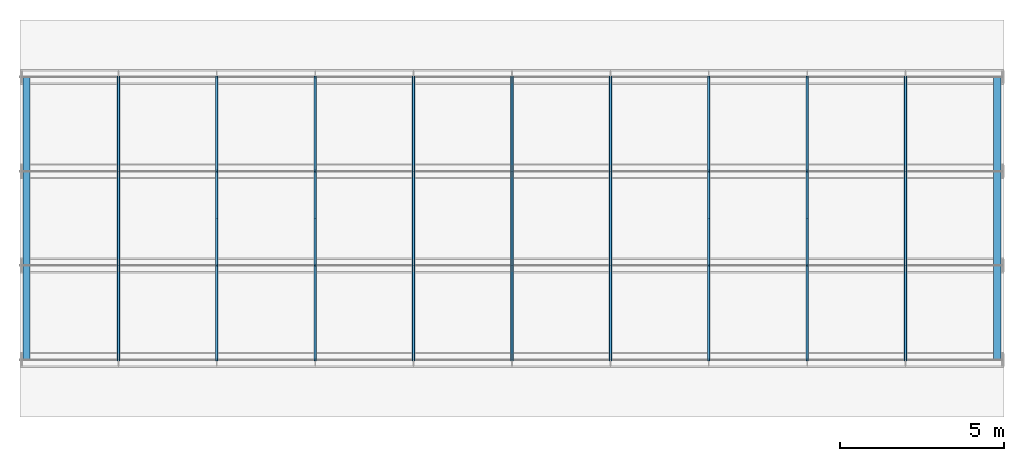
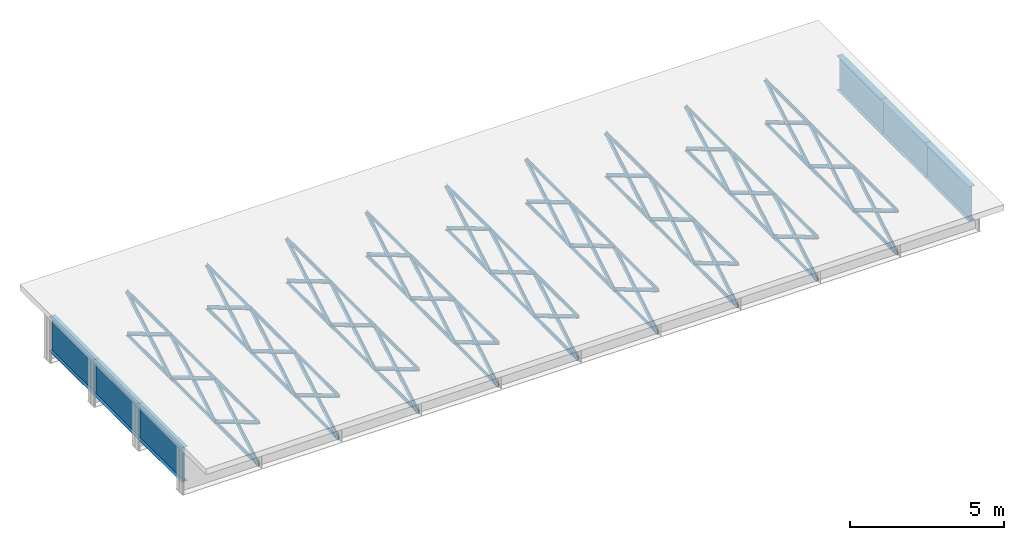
# One storey, part 1 of 11: 114 members.
"""IFC4 building model written with IfcOpenShell, lengths in metres."""

from ifc_helpers import new_model, si_unit, frame, origin, origin_with_axes, origin_2d_with_axis, place, context, subcontext, project, spatial, i_section, l_section, extrude, element, save


model = new_model("IFC4")

# Units and contexts
model_context = context("Model", 3, precision=1e-05, world=origin())
body_context = subcontext(model_context, "Body", "Model", "MODEL_VIEW")
ifc_project = project(units=[si_unit("LENGTHUNIT", "METRE"), si_unit("AREAUNIT", "SQUARE_METRE"), si_unit("VOLUMEUNIT", "CUBIC_METRE"), si_unit("PLANEANGLEUNIT", "RADIAN")], contexts=[model_context])

# Site, building, storey
site_placement = place(None, origin_with_axes())
site = spatial("IfcSite", under=ifc_project, at=site_placement, Name="Default Site")
building_placement = place(site_placement, origin_with_axes())
building = spatial("IfcBuilding", under=site, at=building_placement, Name="Bridge Structure")
storey_placement = place(building_placement, origin_with_axes())
storey = spatial("IfcBuildingStorey", under=building, at=storey_placement, Name="Superstructure")

# Members
for number, where, z_axis, x_axis, name in (
    (1, (0.2, -4.3125, 0.1715), (0.0, 1.0, 0.0), (-1.0, 0.0, 0.0), "End Diaphragm"),
    (2, (0.2, -1.4375, 0.1715), (0.0, 1.0, 0.0), (-1.0, 0.0, 0.0), "End Diaphragm"),
    (3, (0.2, 1.4375, 0.1715), (0.0, 1.0, 0.0), (-1.0, 0.0, 0.0), "End Diaphragm"),
):
    element("IfcMember", number, at=place(storey_placement, frame(where, z_axis=z_axis, x_axis=x_axis)), inside=storey, Name=name, context=body_context, shape_type="SweptSolid", body=[
        extrude(i_section(OverallWidth=0.225, OverallDepth=1.369, WebThickness=0.014, FlangeThickness=0.012, at=origin_2d_with_axis()), origin_with_axes(), (0.0, 0.0, 1.0), 2.875),
    ])
for number, where, z_axis, x_axis, name in (
    (4, (3.0, -4.3125, 0.856), (0.0, 0.8592021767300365, -0.5116362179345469), (-1.0, 0.0, 0.0), "Diagonal Brace"),
    (5, (3.0, -4.3125, -0.856), (0.0, 0.8592021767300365, 0.5116362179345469), (-1.0, 0.0, 0.0), "Diagonal Brace"),
):
    element("IfcMember", number, at=place(storey_placement, frame(where, z_axis=z_axis, x_axis=x_axis)), inside=storey, Name=name, context=body_context, shape_type="SweptSolid", body=[
        extrude(l_section(Depth=0.128, Width=0.085, Thickness=0.008, at=origin_2d_with_axis()), origin_with_axes(), (0.0, 0.0, 1.0), 3.346127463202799),
    ])
for number, where, z_axis, x_axis, name in (
    (6, (3.0, -4.3125, -0.856), (0.0, 1.0, 0.0), (-1.0, 0.0, 0.0), "Bottom Chord"),
    (7, (3.0, -4.3125, 0.856), (0.0, 1.0, 0.0), (-1.0, 0.0, 0.0), "Top Chord"),
):
    element("IfcMember", number, at=place(storey_placement, frame(where, z_axis=z_axis, x_axis=x_axis)), inside=storey, Name=name, context=body_context, shape_type="SweptSolid", body=[
        extrude(l_section(Depth=0.111, Width=0.068, Thickness=0.008, at=origin_2d_with_axis()), origin_with_axes(), (0.0, 0.0, 1.0), 2.875),
    ])
for number, where, z_axis, x_axis, name in (
    (8, (3.0, -1.4375, 0.856), (0.0, 0.8592021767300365, -0.5116362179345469), (-1.0, 0.0, 0.0), "Diagonal Brace"),
    (9, (3.0, -1.4375, -0.856), (0.0, 0.8592021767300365, 0.5116362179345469), (-1.0, 0.0, 0.0), "Diagonal Brace"),
):
    element("IfcMember", number, at=place(storey_placement, frame(where, z_axis=z_axis, x_axis=x_axis)), inside=storey, Name=name, context=body_context, shape_type="SweptSolid", body=[
        extrude(l_section(Depth=0.128, Width=0.085, Thickness=0.008, at=origin_2d_with_axis()), origin_with_axes(), (0.0, 0.0, 1.0), 3.346127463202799),
    ])
for number, where, z_axis, x_axis, name in (
    (10, (3.0, -1.4375, -0.856), (0.0, 1.0, 0.0), (-1.0, 0.0, 0.0), "Bottom Chord"),
    (11, (3.0, -1.4375, 0.856), (0.0, 1.0, 0.0), (-1.0, 0.0, 0.0), "Top Chord"),
):
    element("IfcMember", number, at=place(storey_placement, frame(where, z_axis=z_axis, x_axis=x_axis)), inside=storey, Name=name, context=body_context, shape_type="SweptSolid", body=[
        extrude(l_section(Depth=0.111, Width=0.068, Thickness=0.008, at=origin_2d_with_axis()), origin_with_axes(), (0.0, 0.0, 1.0), 2.875),
    ])
for number, where, z_axis, x_axis, name in (
    (12, (3.0, 1.4375, 0.856), (0.0, 0.8592021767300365, -0.5116362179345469), (-1.0, 0.0, 0.0), "Diagonal Brace"),
    (13, (3.0, 1.4375, -0.856), (0.0, 0.8592021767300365, 0.5116362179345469), (-1.0, 0.0, 0.0), "Diagonal Brace"),
):
    element("IfcMember", number, at=place(storey_placement, frame(where, z_axis=z_axis, x_axis=x_axis)), inside=storey, Name=name, context=body_context, shape_type="SweptSolid", body=[
        extrude(l_section(Depth=0.128, Width=0.085, Thickness=0.008, at=origin_2d_with_axis()), origin_with_axes(), (0.0, 0.0, 1.0), 3.346127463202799),
    ])
for number, where, z_axis, x_axis, name in (
    (14, (3.0, 1.4375, -0.856), (0.0, 1.0, 0.0), (-1.0, 0.0, 0.0), "Bottom Chord"),
    (15, (3.0, 1.4375, 0.856), (0.0, 1.0, 0.0), (-1.0, 0.0, 0.0), "Top Chord"),
):
    element("IfcMember", number, at=place(storey_placement, frame(where, z_axis=z_axis, x_axis=x_axis)), inside=storey, Name=name, context=body_context, shape_type="SweptSolid", body=[
        extrude(l_section(Depth=0.111, Width=0.068, Thickness=0.008, at=origin_2d_with_axis()), origin_with_axes(), (0.0, 0.0, 1.0), 2.875),
    ])
for number, where, z_axis, x_axis, name in (
    (16, (6.0, -4.3125, 0.856), (0.0, 0.8592021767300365, -0.5116362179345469), (-1.0, 0.0, 0.0), "Diagonal Brace"),
    (17, (6.0, -4.3125, -0.856), (0.0, 0.8592021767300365, 0.5116362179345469), (-1.0, 0.0, 0.0), "Diagonal Brace"),
):
    element("IfcMember", number, at=place(storey_placement, frame(where, z_axis=z_axis, x_axis=x_axis)), inside=storey, Name=name, context=body_context, shape_type="SweptSolid", body=[
        extrude(l_section(Depth=0.128, Width=0.085, Thickness=0.008, at=origin_2d_with_axis()), origin_with_axes(), (0.0, 0.0, 1.0), 3.346127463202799),
    ])
for number, where, z_axis, x_axis, name in (
    (18, (6.0, -4.3125, -0.856), (0.0, 1.0, 0.0), (-1.0, 0.0, 0.0), "Bottom Chord"),
    (19, (6.0, -4.3125, 0.856), (0.0, 1.0, 0.0), (-1.0, 0.0, 0.0), "Top Chord"),
):
    element("IfcMember", number, at=place(storey_placement, frame(where, z_axis=z_axis, x_axis=x_axis)), inside=storey, Name=name, context=body_context, shape_type="SweptSolid", body=[
        extrude(l_section(Depth=0.111, Width=0.068, Thickness=0.008, at=origin_2d_with_axis()), origin_with_axes(), (0.0, 0.0, 1.0), 2.875),
    ])
for number, where, z_axis, x_axis, name in (
    (20, (6.0, -1.4375, 0.856), (0.0, 0.8592021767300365, -0.5116362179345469), (-1.0, 0.0, 0.0), "Diagonal Brace"),
    (21, (6.0, -1.4375, -0.856), (0.0, 0.8592021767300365, 0.5116362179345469), (-1.0, 0.0, 0.0), "Diagonal Brace"),
):
    element("IfcMember", number, at=place(storey_placement, frame(where, z_axis=z_axis, x_axis=x_axis)), inside=storey, Name=name, context=body_context, shape_type="SweptSolid", body=[
        extrude(l_section(Depth=0.128, Width=0.085, Thickness=0.008, at=origin_2d_with_axis()), origin_with_axes(), (0.0, 0.0, 1.0), 3.346127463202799),
    ])
for number, where, z_axis, x_axis, name in (
    (22, (6.0, -1.4375, -0.856), (0.0, 1.0, 0.0), (-1.0, 0.0, 0.0), "Bottom Chord"),
    (23, (6.0, -1.4375, 0.856), (0.0, 1.0, 0.0), (-1.0, 0.0, 0.0), "Top Chord"),
):
    element("IfcMember", number, at=place(storey_placement, frame(where, z_axis=z_axis, x_axis=x_axis)), inside=storey, Name=name, context=body_context, shape_type="SweptSolid", body=[
        extrude(l_section(Depth=0.111, Width=0.068, Thickness=0.008, at=origin_2d_with_axis()), origin_with_axes(), (0.0, 0.0, 1.0), 2.875),
    ])
for number, where, z_axis, x_axis, name in (
    (24, (6.0, 1.4375, 0.856), (0.0, 0.8592021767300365, -0.5116362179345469), (-1.0, 0.0, 0.0), "Diagonal Brace"),
    (25, (6.0, 1.4375, -0.856), (0.0, 0.8592021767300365, 0.5116362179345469), (-1.0, 0.0, 0.0), "Diagonal Brace"),
):
    element("IfcMember", number, at=place(storey_placement, frame(where, z_axis=z_axis, x_axis=x_axis)), inside=storey, Name=name, context=body_context, shape_type="SweptSolid", body=[
        extrude(l_section(Depth=0.128, Width=0.085, Thickness=0.008, at=origin_2d_with_axis()), origin_with_axes(), (0.0, 0.0, 1.0), 3.346127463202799),
    ])
for number, where, z_axis, x_axis, name in (
    (26, (6.0, 1.4375, -0.856), (0.0, 1.0, 0.0), (-1.0, 0.0, 0.0), "Bottom Chord"),
    (27, (6.0, 1.4375, 0.856), (0.0, 1.0, 0.0), (-1.0, 0.0, 0.0), "Top Chord"),
):
    element("IfcMember", number, at=place(storey_placement, frame(where, z_axis=z_axis, x_axis=x_axis)), inside=storey, Name=name, context=body_context, shape_type="SweptSolid", body=[
        extrude(l_section(Depth=0.111, Width=0.068, Thickness=0.008, at=origin_2d_with_axis()), origin_with_axes(), (0.0, 0.0, 1.0), 2.875),
    ])
for number, where, z_axis, x_axis, name in (
    (28, (9.0, -4.3125, 0.856), (0.0, 0.8592021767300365, -0.5116362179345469), (-1.0, 0.0, 0.0), "Diagonal Brace"),
    (29, (9.0, -4.3125, -0.856), (0.0, 0.8592021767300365, 0.5116362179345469), (-1.0, 0.0, 0.0), "Diagonal Brace"),
):
    element("IfcMember", number, at=place(storey_placement, frame(where, z_axis=z_axis, x_axis=x_axis)), inside=storey, Name=name, context=body_context, shape_type="SweptSolid", body=[
        extrude(l_section(Depth=0.128, Width=0.085, Thickness=0.008, at=origin_2d_with_axis()), origin_with_axes(), (0.0, 0.0, 1.0), 3.346127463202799),
    ])
for number, where, z_axis, x_axis, name in (
    (30, (9.0, -4.3125, -0.856), (0.0, 1.0, 0.0), (-1.0, 0.0, 0.0), "Bottom Chord"),
    (31, (9.0, -4.3125, 0.856), (0.0, 1.0, 0.0), (-1.0, 0.0, 0.0), "Top Chord"),
):
    element("IfcMember", number, at=place(storey_placement, frame(where, z_axis=z_axis, x_axis=x_axis)), inside=storey, Name=name, context=body_context, shape_type="SweptSolid", body=[
        extrude(l_section(Depth=0.111, Width=0.068, Thickness=0.008, at=origin_2d_with_axis()), origin_with_axes(), (0.0, 0.0, 1.0), 2.875),
    ])
for number, where, z_axis, x_axis, name in (
    (32, (9.0, -1.4375, 0.856), (0.0, 0.8592021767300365, -0.5116362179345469), (-1.0, 0.0, 0.0), "Diagonal Brace"),
    (33, (9.0, -1.4375, -0.856), (0.0, 0.8592021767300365, 0.5116362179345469), (-1.0, 0.0, 0.0), "Diagonal Brace"),
):
    element("IfcMember", number, at=place(storey_placement, frame(where, z_axis=z_axis, x_axis=x_axis)), inside=storey, Name=name, context=body_context, shape_type="SweptSolid", body=[
        extrude(l_section(Depth=0.128, Width=0.085, Thickness=0.008, at=origin_2d_with_axis()), origin_with_axes(), (0.0, 0.0, 1.0), 3.346127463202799),
    ])
for number, where, z_axis, x_axis, name in (
    (34, (9.0, -1.4375, -0.856), (0.0, 1.0, 0.0), (-1.0, 0.0, 0.0), "Bottom Chord"),
    (35, (9.0, -1.4375, 0.856), (0.0, 1.0, 0.0), (-1.0, 0.0, 0.0), "Top Chord"),
):
    element("IfcMember", number, at=place(storey_placement, frame(where, z_axis=z_axis, x_axis=x_axis)), inside=storey, Name=name, context=body_context, shape_type="SweptSolid", body=[
        extrude(l_section(Depth=0.111, Width=0.068, Thickness=0.008, at=origin_2d_with_axis()), origin_with_axes(), (0.0, 0.0, 1.0), 2.875),
    ])
for number, where, z_axis, x_axis, name in (
    (36, (9.0, 1.4375, 0.856), (0.0, 0.8592021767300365, -0.5116362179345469), (-1.0, 0.0, 0.0), "Diagonal Brace"),
    (37, (9.0, 1.4375, -0.856), (0.0, 0.8592021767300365, 0.5116362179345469), (-1.0, 0.0, 0.0), "Diagonal Brace"),
):
    element("IfcMember", number, at=place(storey_placement, frame(where, z_axis=z_axis, x_axis=x_axis)), inside=storey, Name=name, context=body_context, shape_type="SweptSolid", body=[
        extrude(l_section(Depth=0.128, Width=0.085, Thickness=0.008, at=origin_2d_with_axis()), origin_with_axes(), (0.0, 0.0, 1.0), 3.346127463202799),
    ])
for number, where, z_axis, x_axis, name in (
    (38, (9.0, 1.4375, -0.856), (0.0, 1.0, 0.0), (-1.0, 0.0, 0.0), "Bottom Chord"),
    (39, (9.0, 1.4375, 0.856), (0.0, 1.0, 0.0), (-1.0, 0.0, 0.0), "Top Chord"),
):
    element("IfcMember", number, at=place(storey_placement, frame(where, z_axis=z_axis, x_axis=x_axis)), inside=storey, Name=name, context=body_context, shape_type="SweptSolid", body=[
        extrude(l_section(Depth=0.111, Width=0.068, Thickness=0.008, at=origin_2d_with_axis()), origin_with_axes(), (0.0, 0.0, 1.0), 2.875),
    ])
for number, where, z_axis, x_axis, name in (
    (40, (12.0, -4.3125, 0.856), (0.0, 0.8592021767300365, -0.5116362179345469), (-1.0, 0.0, 0.0), "Diagonal Brace"),
    (41, (12.0, -4.3125, -0.856), (0.0, 0.8592021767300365, 0.5116362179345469), (-1.0, 0.0, 0.0), "Diagonal Brace"),
):
    element("IfcMember", number, at=place(storey_placement, frame(where, z_axis=z_axis, x_axis=x_axis)), inside=storey, Name=name, context=body_context, shape_type="SweptSolid", body=[
        extrude(l_section(Depth=0.128, Width=0.085, Thickness=0.008, at=origin_2d_with_axis()), origin_with_axes(), (0.0, 0.0, 1.0), 3.346127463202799),
    ])
for number, where, z_axis, x_axis, name in (
    (42, (12.0, -4.3125, -0.856), (0.0, 1.0, 0.0), (-1.0, 0.0, 0.0), "Bottom Chord"),
    (43, (12.0, -4.3125, 0.856), (0.0, 1.0, 0.0), (-1.0, 0.0, 0.0), "Top Chord"),
):
    element("IfcMember", number, at=place(storey_placement, frame(where, z_axis=z_axis, x_axis=x_axis)), inside=storey, Name=name, context=body_context, shape_type="SweptSolid", body=[
        extrude(l_section(Depth=0.111, Width=0.068, Thickness=0.008, at=origin_2d_with_axis()), origin_with_axes(), (0.0, 0.0, 1.0), 2.875),
    ])
for number, where, z_axis, x_axis, name in (
    (44, (12.0, -1.4375, 0.856), (0.0, 0.8592021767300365, -0.5116362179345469), (-1.0, 0.0, 0.0), "Diagonal Brace"),
    (45, (12.0, -1.4375, -0.856), (0.0, 0.8592021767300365, 0.5116362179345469), (-1.0, 0.0, 0.0), "Diagonal Brace"),
):
    element("IfcMember", number, at=place(storey_placement, frame(where, z_axis=z_axis, x_axis=x_axis)), inside=storey, Name=name, context=body_context, shape_type="SweptSolid", body=[
        extrude(l_section(Depth=0.128, Width=0.085, Thickness=0.008, at=origin_2d_with_axis()), origin_with_axes(), (0.0, 0.0, 1.0), 3.346127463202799),
    ])
for number, where, z_axis, x_axis, name in (
    (46, (12.0, -1.4375, -0.856), (0.0, 1.0, 0.0), (-1.0, 0.0, 0.0), "Bottom Chord"),
    (47, (12.0, -1.4375, 0.856), (0.0, 1.0, 0.0), (-1.0, 0.0, 0.0), "Top Chord"),
):
    element("IfcMember", number, at=place(storey_placement, frame(where, z_axis=z_axis, x_axis=x_axis)), inside=storey, Name=name, context=body_context, shape_type="SweptSolid", body=[
        extrude(l_section(Depth=0.111, Width=0.068, Thickness=0.008, at=origin_2d_with_axis()), origin_with_axes(), (0.0, 0.0, 1.0), 2.875),
    ])
for number, where, z_axis, x_axis, name in (
    (48, (12.0, 1.4375, 0.856), (0.0, 0.8592021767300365, -0.5116362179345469), (-1.0, 0.0, 0.0), "Diagonal Brace"),
    (49, (12.0, 1.4375, -0.856), (0.0, 0.8592021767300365, 0.5116362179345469), (-1.0, 0.0, 0.0), "Diagonal Brace"),
):
    element("IfcMember", number, at=place(storey_placement, frame(where, z_axis=z_axis, x_axis=x_axis)), inside=storey, Name=name, context=body_context, shape_type="SweptSolid", body=[
        extrude(l_section(Depth=0.128, Width=0.085, Thickness=0.008, at=origin_2d_with_axis()), origin_with_axes(), (0.0, 0.0, 1.0), 3.346127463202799),
    ])
for number, where, z_axis, x_axis, name in (
    (50, (12.0, 1.4375, -0.856), (0.0, 1.0, 0.0), (-1.0, 0.0, 0.0), "Bottom Chord"),
    (51, (12.0, 1.4375, 0.856), (0.0, 1.0, 0.0), (-1.0, 0.0, 0.0), "Top Chord"),
):
    element("IfcMember", number, at=place(storey_placement, frame(where, z_axis=z_axis, x_axis=x_axis)), inside=storey, Name=name, context=body_context, shape_type="SweptSolid", body=[
        extrude(l_section(Depth=0.111, Width=0.068, Thickness=0.008, at=origin_2d_with_axis()), origin_with_axes(), (0.0, 0.0, 1.0), 2.875),
    ])
for number, where, z_axis, x_axis, name in (
    (52, (15.0, -4.3125, 0.856), (0.0, 0.8592021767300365, -0.5116362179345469), (-1.0, 0.0, 0.0), "Diagonal Brace"),
    (53, (15.0, -4.3125, -0.856), (0.0, 0.8592021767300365, 0.5116362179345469), (-1.0, 0.0, 0.0), "Diagonal Brace"),
):
    element("IfcMember", number, at=place(storey_placement, frame(where, z_axis=z_axis, x_axis=x_axis)), inside=storey, Name=name, context=body_context, shape_type="SweptSolid", body=[
        extrude(l_section(Depth=0.128, Width=0.085, Thickness=0.008, at=origin_2d_with_axis()), origin_with_axes(), (0.0, 0.0, 1.0), 3.346127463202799),
    ])
for number, where, z_axis, x_axis, name in (
    (54, (15.0, -4.3125, -0.856), (0.0, 1.0, 0.0), (-1.0, 0.0, 0.0), "Bottom Chord"),
    (55, (15.0, -4.3125, 0.856), (0.0, 1.0, 0.0), (-1.0, 0.0, 0.0), "Top Chord"),
):
    element("IfcMember", number, at=place(storey_placement, frame(where, z_axis=z_axis, x_axis=x_axis)), inside=storey, Name=name, context=body_context, shape_type="SweptSolid", body=[
        extrude(l_section(Depth=0.111, Width=0.068, Thickness=0.008, at=origin_2d_with_axis()), origin_with_axes(), (0.0, 0.0, 1.0), 2.875),
    ])
for number, where, z_axis, x_axis, name in (
    (56, (15.0, -1.4375, 0.856), (0.0, 0.8592021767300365, -0.5116362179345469), (-1.0, 0.0, 0.0), "Diagonal Brace"),
    (57, (15.0, -1.4375, -0.856), (0.0, 0.8592021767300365, 0.5116362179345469), (-1.0, 0.0, 0.0), "Diagonal Brace"),
):
    element("IfcMember", number, at=place(storey_placement, frame(where, z_axis=z_axis, x_axis=x_axis)), inside=storey, Name=name, context=body_context, shape_type="SweptSolid", body=[
        extrude(l_section(Depth=0.128, Width=0.085, Thickness=0.008, at=origin_2d_with_axis()), origin_with_axes(), (0.0, 0.0, 1.0), 3.346127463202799),
    ])
for number, where, z_axis, x_axis, name in (
    (58, (15.0, -1.4375, -0.856), (0.0, 1.0, 0.0), (-1.0, 0.0, 0.0), "Bottom Chord"),
    (59, (15.0, -1.4375, 0.856), (0.0, 1.0, 0.0), (-1.0, 0.0, 0.0), "Top Chord"),
):
    element("IfcMember", number, at=place(storey_placement, frame(where, z_axis=z_axis, x_axis=x_axis)), inside=storey, Name=name, context=body_context, shape_type="SweptSolid", body=[
        extrude(l_section(Depth=0.111, Width=0.068, Thickness=0.008, at=origin_2d_with_axis()), origin_with_axes(), (0.0, 0.0, 1.0), 2.875),
    ])
for number, where, z_axis, x_axis, name in (
    (60, (15.0, 1.4375, 0.856), (0.0, 0.8592021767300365, -0.5116362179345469), (-1.0, 0.0, 0.0), "Diagonal Brace"),
    (61, (15.0, 1.4375, -0.856), (0.0, 0.8592021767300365, 0.5116362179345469), (-1.0, 0.0, 0.0), "Diagonal Brace"),
):
    element("IfcMember", number, at=place(storey_placement, frame(where, z_axis=z_axis, x_axis=x_axis)), inside=storey, Name=name, context=body_context, shape_type="SweptSolid", body=[
        extrude(l_section(Depth=0.128, Width=0.085, Thickness=0.008, at=origin_2d_with_axis()), origin_with_axes(), (0.0, 0.0, 1.0), 3.346127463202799),
    ])
for number, where, z_axis, x_axis, name in (
    (62, (15.0, 1.4375, -0.856), (0.0, 1.0, 0.0), (-1.0, 0.0, 0.0), "Bottom Chord"),
    (63, (15.0, 1.4375, 0.856), (0.0, 1.0, 0.0), (-1.0, 0.0, 0.0), "Top Chord"),
):
    element("IfcMember", number, at=place(storey_placement, frame(where, z_axis=z_axis, x_axis=x_axis)), inside=storey, Name=name, context=body_context, shape_type="SweptSolid", body=[
        extrude(l_section(Depth=0.111, Width=0.068, Thickness=0.008, at=origin_2d_with_axis()), origin_with_axes(), (0.0, 0.0, 1.0), 2.875),
    ])
for number, where, z_axis, x_axis, name in (
    (64, (18.0, -4.3125, 0.856), (0.0, 0.8592021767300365, -0.5116362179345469), (-1.0, 0.0, 0.0), "Diagonal Brace"),
    (65, (18.0, -4.3125, -0.856), (0.0, 0.8592021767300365, 0.5116362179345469), (-1.0, 0.0, 0.0), "Diagonal Brace"),
):
    element("IfcMember", number, at=place(storey_placement, frame(where, z_axis=z_axis, x_axis=x_axis)), inside=storey, Name=name, context=body_context, shape_type="SweptSolid", body=[
        extrude(l_section(Depth=0.128, Width=0.085, Thickness=0.008, at=origin_2d_with_axis()), origin_with_axes(), (0.0, 0.0, 1.0), 3.346127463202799),
    ])
for number, where, z_axis, x_axis, name in (
    (66, (18.0, -4.3125, -0.856), (0.0, 1.0, 0.0), (-1.0, 0.0, 0.0), "Bottom Chord"),
    (67, (18.0, -4.3125, 0.856), (0.0, 1.0, 0.0), (-1.0, 0.0, 0.0), "Top Chord"),
):
    element("IfcMember", number, at=place(storey_placement, frame(where, z_axis=z_axis, x_axis=x_axis)), inside=storey, Name=name, context=body_context, shape_type="SweptSolid", body=[
        extrude(l_section(Depth=0.111, Width=0.068, Thickness=0.008, at=origin_2d_with_axis()), origin_with_axes(), (0.0, 0.0, 1.0), 2.875),
    ])
for number, where, z_axis, x_axis, name in (
    (68, (18.0, -1.4375, 0.856), (0.0, 0.8592021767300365, -0.5116362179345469), (-1.0, 0.0, 0.0), "Diagonal Brace"),
    (69, (18.0, -1.4375, -0.856), (0.0, 0.8592021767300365, 0.5116362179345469), (-1.0, 0.0, 0.0), "Diagonal Brace"),
):
    element("IfcMember", number, at=place(storey_placement, frame(where, z_axis=z_axis, x_axis=x_axis)), inside=storey, Name=name, context=body_context, shape_type="SweptSolid", body=[
        extrude(l_section(Depth=0.128, Width=0.085, Thickness=0.008, at=origin_2d_with_axis()), origin_with_axes(), (0.0, 0.0, 1.0), 3.346127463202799),
    ])
for number, where, z_axis, x_axis, name in (
    (70, (18.0, -1.4375, -0.856), (0.0, 1.0, 0.0), (-1.0, 0.0, 0.0), "Bottom Chord"),
    (71, (18.0, -1.4375, 0.856), (0.0, 1.0, 0.0), (-1.0, 0.0, 0.0), "Top Chord"),
):
    element("IfcMember", number, at=place(storey_placement, frame(where, z_axis=z_axis, x_axis=x_axis)), inside=storey, Name=name, context=body_context, shape_type="SweptSolid", body=[
        extrude(l_section(Depth=0.111, Width=0.068, Thickness=0.008, at=origin_2d_with_axis()), origin_with_axes(), (0.0, 0.0, 1.0), 2.875),
    ])
for number, where, z_axis, x_axis, name in (
    (72, (18.0, 1.4375, 0.856), (0.0, 0.8592021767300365, -0.5116362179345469), (-1.0, 0.0, 0.0), "Diagonal Brace"),
    (73, (18.0, 1.4375, -0.856), (0.0, 0.8592021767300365, 0.5116362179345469), (-1.0, 0.0, 0.0), "Diagonal Brace"),
):
    element("IfcMember", number, at=place(storey_placement, frame(where, z_axis=z_axis, x_axis=x_axis)), inside=storey, Name=name, context=body_context, shape_type="SweptSolid", body=[
        extrude(l_section(Depth=0.128, Width=0.085, Thickness=0.008, at=origin_2d_with_axis()), origin_with_axes(), (0.0, 0.0, 1.0), 3.346127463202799),
    ])
for number, where, z_axis, x_axis, name in (
    (74, (18.0, 1.4375, -0.856), (0.0, 1.0, 0.0), (-1.0, 0.0, 0.0), "Bottom Chord"),
    (75, (18.0, 1.4375, 0.856), (0.0, 1.0, 0.0), (-1.0, 0.0, 0.0), "Top Chord"),
):
    element("IfcMember", number, at=place(storey_placement, frame(where, z_axis=z_axis, x_axis=x_axis)), inside=storey, Name=name, context=body_context, shape_type="SweptSolid", body=[
        extrude(l_section(Depth=0.111, Width=0.068, Thickness=0.008, at=origin_2d_with_axis()), origin_with_axes(), (0.0, 0.0, 1.0), 2.875),
    ])
for number, where, z_axis, x_axis, name in (
    (76, (21.0, -4.3125, 0.856), (0.0, 0.8592021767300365, -0.5116362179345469), (-1.0, 0.0, 0.0), "Diagonal Brace"),
    (77, (21.0, -4.3125, -0.856), (0.0, 0.8592021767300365, 0.5116362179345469), (-1.0, 0.0, 0.0), "Diagonal Brace"),
):
    element("IfcMember", number, at=place(storey_placement, frame(where, z_axis=z_axis, x_axis=x_axis)), inside=storey, Name=name, context=body_context, shape_type="SweptSolid", body=[
        extrude(l_section(Depth=0.128, Width=0.085, Thickness=0.008, at=origin_2d_with_axis()), origin_with_axes(), (0.0, 0.0, 1.0), 3.346127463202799),
    ])
for number, where, z_axis, x_axis, name in (
    (78, (21.0, -4.3125, -0.856), (0.0, 1.0, 0.0), (-1.0, 0.0, 0.0), "Bottom Chord"),
    (79, (21.0, -4.3125, 0.856), (0.0, 1.0, 0.0), (-1.0, 0.0, 0.0), "Top Chord"),
):
    element("IfcMember", number, at=place(storey_placement, frame(where, z_axis=z_axis, x_axis=x_axis)), inside=storey, Name=name, context=body_context, shape_type="SweptSolid", body=[
        extrude(l_section(Depth=0.111, Width=0.068, Thickness=0.008, at=origin_2d_with_axis()), origin_with_axes(), (0.0, 0.0, 1.0), 2.875),
    ])
for number, where, z_axis, x_axis, name in (
    (80, (21.0, -1.4375, 0.856), (0.0, 0.8592021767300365, -0.5116362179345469), (-1.0, 0.0, 0.0), "Diagonal Brace"),
    (81, (21.0, -1.4375, -0.856), (0.0, 0.8592021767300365, 0.5116362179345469), (-1.0, 0.0, 0.0), "Diagonal Brace"),
):
    element("IfcMember", number, at=place(storey_placement, frame(where, z_axis=z_axis, x_axis=x_axis)), inside=storey, Name=name, context=body_context, shape_type="SweptSolid", body=[
        extrude(l_section(Depth=0.128, Width=0.085, Thickness=0.008, at=origin_2d_with_axis()), origin_with_axes(), (0.0, 0.0, 1.0), 3.346127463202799),
    ])
for number, where, z_axis, x_axis, name in (
    (82, (21.0, -1.4375, -0.856), (0.0, 1.0, 0.0), (-1.0, 0.0, 0.0), "Bottom Chord"),
    (83, (21.0, -1.4375, 0.856), (0.0, 1.0, 0.0), (-1.0, 0.0, 0.0), "Top Chord"),
):
    element("IfcMember", number, at=place(storey_placement, frame(where, z_axis=z_axis, x_axis=x_axis)), inside=storey, Name=name, context=body_context, shape_type="SweptSolid", body=[
        extrude(l_section(Depth=0.111, Width=0.068, Thickness=0.008, at=origin_2d_with_axis()), origin_with_axes(), (0.0, 0.0, 1.0), 2.875),
    ])
for number, where, z_axis, x_axis, name in (
    (84, (21.0, 1.4375, 0.856), (0.0, 0.8592021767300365, -0.5116362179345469), (-1.0, 0.0, 0.0), "Diagonal Brace"),
    (85, (21.0, 1.4375, -0.856), (0.0, 0.8592021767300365, 0.5116362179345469), (-1.0, 0.0, 0.0), "Diagonal Brace"),
):
    element("IfcMember", number, at=place(storey_placement, frame(where, z_axis=z_axis, x_axis=x_axis)), inside=storey, Name=name, context=body_context, shape_type="SweptSolid", body=[
        extrude(l_section(Depth=0.128, Width=0.085, Thickness=0.008, at=origin_2d_with_axis()), origin_with_axes(), (0.0, 0.0, 1.0), 3.346127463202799),
    ])
for number, where, z_axis, x_axis, name in (
    (86, (21.0, 1.4375, -0.856), (0.0, 1.0, 0.0), (-1.0, 0.0, 0.0), "Bottom Chord"),
    (87, (21.0, 1.4375, 0.856), (0.0, 1.0, 0.0), (-1.0, 0.0, 0.0), "Top Chord"),
):
    element("IfcMember", number, at=place(storey_placement, frame(where, z_axis=z_axis, x_axis=x_axis)), inside=storey, Name=name, context=body_context, shape_type="SweptSolid", body=[
        extrude(l_section(Depth=0.111, Width=0.068, Thickness=0.008, at=origin_2d_with_axis()), origin_with_axes(), (0.0, 0.0, 1.0), 2.875),
    ])
for number, where, z_axis, x_axis, name in (
    (88, (24.0, -4.3125, 0.856), (0.0, 0.8592021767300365, -0.5116362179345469), (-1.0, 0.0, 0.0), "Diagonal Brace"),
    (89, (24.0, -4.3125, -0.856), (0.0, 0.8592021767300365, 0.5116362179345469), (-1.0, 0.0, 0.0), "Diagonal Brace"),
):
    element("IfcMember", number, at=place(storey_placement, frame(where, z_axis=z_axis, x_axis=x_axis)), inside=storey, Name=name, context=body_context, shape_type="SweptSolid", body=[
        extrude(l_section(Depth=0.128, Width=0.085, Thickness=0.008, at=origin_2d_with_axis()), origin_with_axes(), (0.0, 0.0, 1.0), 3.346127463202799),
    ])
for number, where, z_axis, x_axis, name in (
    (90, (24.0, -4.3125, -0.856), (0.0, 1.0, 0.0), (-1.0, 0.0, 0.0), "Bottom Chord"),
    (91, (24.0, -4.3125, 0.856), (0.0, 1.0, 0.0), (-1.0, 0.0, 0.0), "Top Chord"),
):
    element("IfcMember", number, at=place(storey_placement, frame(where, z_axis=z_axis, x_axis=x_axis)), inside=storey, Name=name, context=body_context, shape_type="SweptSolid", body=[
        extrude(l_section(Depth=0.111, Width=0.068, Thickness=0.008, at=origin_2d_with_axis()), origin_with_axes(), (0.0, 0.0, 1.0), 2.875),
    ])
for number, where, z_axis, x_axis, name in (
    (92, (24.0, -1.4375, 0.856), (0.0, 0.8592021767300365, -0.5116362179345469), (-1.0, 0.0, 0.0), "Diagonal Brace"),
    (93, (24.0, -1.4375, -0.856), (0.0, 0.8592021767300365, 0.5116362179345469), (-1.0, 0.0, 0.0), "Diagonal Brace"),
):
    element("IfcMember", number, at=place(storey_placement, frame(where, z_axis=z_axis, x_axis=x_axis)), inside=storey, Name=name, context=body_context, shape_type="SweptSolid", body=[
        extrude(l_section(Depth=0.128, Width=0.085, Thickness=0.008, at=origin_2d_with_axis()), origin_with_axes(), (0.0, 0.0, 1.0), 3.346127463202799),
    ])
for number, where, z_axis, x_axis, name in (
    (94, (24.0, -1.4375, -0.856), (0.0, 1.0, 0.0), (-1.0, 0.0, 0.0), "Bottom Chord"),
    (95, (24.0, -1.4375, 0.856), (0.0, 1.0, 0.0), (-1.0, 0.0, 0.0), "Top Chord"),
):
    element("IfcMember", number, at=place(storey_placement, frame(where, z_axis=z_axis, x_axis=x_axis)), inside=storey, Name=name, context=body_context, shape_type="SweptSolid", body=[
        extrude(l_section(Depth=0.111, Width=0.068, Thickness=0.008, at=origin_2d_with_axis()), origin_with_axes(), (0.0, 0.0, 1.0), 2.875),
    ])
for number, where, z_axis, x_axis, name in (
    (96, (24.0, 1.4375, 0.856), (0.0, 0.8592021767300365, -0.5116362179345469), (-1.0, 0.0, 0.0), "Diagonal Brace"),
    (97, (24.0, 1.4375, -0.856), (0.0, 0.8592021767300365, 0.5116362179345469), (-1.0, 0.0, 0.0), "Diagonal Brace"),
):
    element("IfcMember", number, at=place(storey_placement, frame(where, z_axis=z_axis, x_axis=x_axis)), inside=storey, Name=name, context=body_context, shape_type="SweptSolid", body=[
        extrude(l_section(Depth=0.128, Width=0.085, Thickness=0.008, at=origin_2d_with_axis()), origin_with_axes(), (0.0, 0.0, 1.0), 3.346127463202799),
    ])
for number, where, z_axis, x_axis, name in (
    (98, (24.0, 1.4375, -0.856), (0.0, 1.0, 0.0), (-1.0, 0.0, 0.0), "Bottom Chord"),
    (99, (24.0, 1.4375, 0.856), (0.0, 1.0, 0.0), (-1.0, 0.0, 0.0), "Top Chord"),
):
    element("IfcMember", number, at=place(storey_placement, frame(where, z_axis=z_axis, x_axis=x_axis)), inside=storey, Name=name, context=body_context, shape_type="SweptSolid", body=[
        extrude(l_section(Depth=0.111, Width=0.068, Thickness=0.008, at=origin_2d_with_axis()), origin_with_axes(), (0.0, 0.0, 1.0), 2.875),
    ])
for number, where, z_axis, x_axis, name in (
    (100, (27.0, -4.3125, 0.856), (0.0, 0.8592021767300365, -0.5116362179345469), (-1.0, 0.0, 0.0), "Diagonal Brace"),
    (101, (27.0, -4.3125, -0.856), (0.0, 0.8592021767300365, 0.5116362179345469), (-1.0, 0.0, 0.0), "Diagonal Brace"),
):
    element("IfcMember", number, at=place(storey_placement, frame(where, z_axis=z_axis, x_axis=x_axis)), inside=storey, Name=name, context=body_context, shape_type="SweptSolid", body=[
        extrude(l_section(Depth=0.128, Width=0.085, Thickness=0.008, at=origin_2d_with_axis()), origin_with_axes(), (0.0, 0.0, 1.0), 3.346127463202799),
    ])
for number, where, z_axis, x_axis, name in (
    (102, (27.0, -4.3125, -0.856), (0.0, 1.0, 0.0), (-1.0, 0.0, 0.0), "Bottom Chord"),
    (103, (27.0, -4.3125, 0.856), (0.0, 1.0, 0.0), (-1.0, 0.0, 0.0), "Top Chord"),
):
    element("IfcMember", number, at=place(storey_placement, frame(where, z_axis=z_axis, x_axis=x_axis)), inside=storey, Name=name, context=body_context, shape_type="SweptSolid", body=[
        extrude(l_section(Depth=0.111, Width=0.068, Thickness=0.008, at=origin_2d_with_axis()), origin_with_axes(), (0.0, 0.0, 1.0), 2.875),
    ])
for number, where, z_axis, x_axis, name in (
    (104, (27.0, -1.4375, 0.856), (0.0, 0.8592021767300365, -0.5116362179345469), (-1.0, 0.0, 0.0), "Diagonal Brace"),
    (105, (27.0, -1.4375, -0.856), (0.0, 0.8592021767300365, 0.5116362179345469), (-1.0, 0.0, 0.0), "Diagonal Brace"),
):
    element("IfcMember", number, at=place(storey_placement, frame(where, z_axis=z_axis, x_axis=x_axis)), inside=storey, Name=name, context=body_context, shape_type="SweptSolid", body=[
        extrude(l_section(Depth=0.128, Width=0.085, Thickness=0.008, at=origin_2d_with_axis()), origin_with_axes(), (0.0, 0.0, 1.0), 3.346127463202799),
    ])
for number, where, z_axis, x_axis, name in (
    (106, (27.0, -1.4375, -0.856), (0.0, 1.0, 0.0), (-1.0, 0.0, 0.0), "Bottom Chord"),
    (107, (27.0, -1.4375, 0.856), (0.0, 1.0, 0.0), (-1.0, 0.0, 0.0), "Top Chord"),
):
    element("IfcMember", number, at=place(storey_placement, frame(where, z_axis=z_axis, x_axis=x_axis)), inside=storey, Name=name, context=body_context, shape_type="SweptSolid", body=[
        extrude(l_section(Depth=0.111, Width=0.068, Thickness=0.008, at=origin_2d_with_axis()), origin_with_axes(), (0.0, 0.0, 1.0), 2.875),
    ])
for number, where, z_axis, x_axis, name in (
    (108, (27.0, 1.4375, 0.856), (0.0, 0.8592021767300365, -0.5116362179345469), (-1.0, 0.0, 0.0), "Diagonal Brace"),
    (109, (27.0, 1.4375, -0.856), (0.0, 0.8592021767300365, 0.5116362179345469), (-1.0, 0.0, 0.0), "Diagonal Brace"),
):
    element("IfcMember", number, at=place(storey_placement, frame(where, z_axis=z_axis, x_axis=x_axis)), inside=storey, Name=name, context=body_context, shape_type="SweptSolid", body=[
        extrude(l_section(Depth=0.128, Width=0.085, Thickness=0.008, at=origin_2d_with_axis()), origin_with_axes(), (0.0, 0.0, 1.0), 3.346127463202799),
    ])
for number, where, z_axis, x_axis, name in (
    (110, (27.0, 1.4375, -0.856), (0.0, 1.0, 0.0), (-1.0, 0.0, 0.0), "Bottom Chord"),
    (111, (27.0, 1.4375, 0.856), (0.0, 1.0, 0.0), (-1.0, 0.0, 0.0), "Top Chord"),
):
    element("IfcMember", number, at=place(storey_placement, frame(where, z_axis=z_axis, x_axis=x_axis)), inside=storey, Name=name, context=body_context, shape_type="SweptSolid", body=[
        extrude(l_section(Depth=0.111, Width=0.068, Thickness=0.008, at=origin_2d_with_axis()), origin_with_axes(), (0.0, 0.0, 1.0), 2.875),
    ])
for number, where, z_axis, x_axis, name in (
    (112, (29.8, -4.3125, 0.1715), (0.0, 1.0, 0.0), (-1.0, 0.0, 0.0), "End Diaphragm"),
    (113, (29.8, -1.4375, 0.1715), (0.0, 1.0, 0.0), (-1.0, 0.0, 0.0), "End Diaphragm"),
    (114, (29.8, 1.4375, 0.1715), (0.0, 1.0, 0.0), (-1.0, 0.0, 0.0), "End Diaphragm"),
):
    element("IfcMember", number, at=place(storey_placement, frame(where, z_axis=z_axis, x_axis=x_axis)), inside=storey, Name=name, context=body_context, shape_type="SweptSolid", body=[
        extrude(i_section(OverallWidth=0.225, OverallDepth=1.369, WebThickness=0.014, FlangeThickness=0.012, at=origin_2d_with_axis()), origin_with_axes(), (0.0, 0.0, 1.0), 2.875),
    ])

save(model, "model.ifc")
